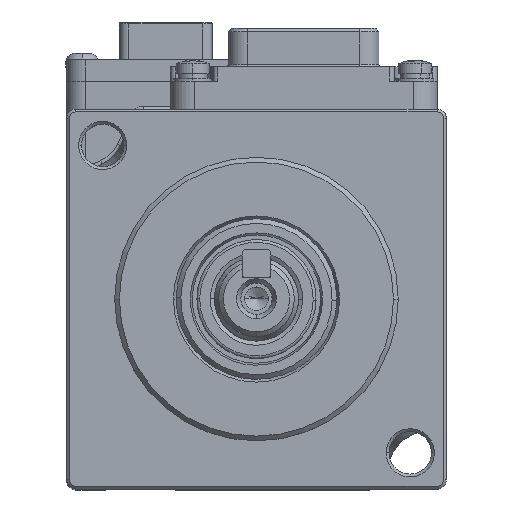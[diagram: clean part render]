
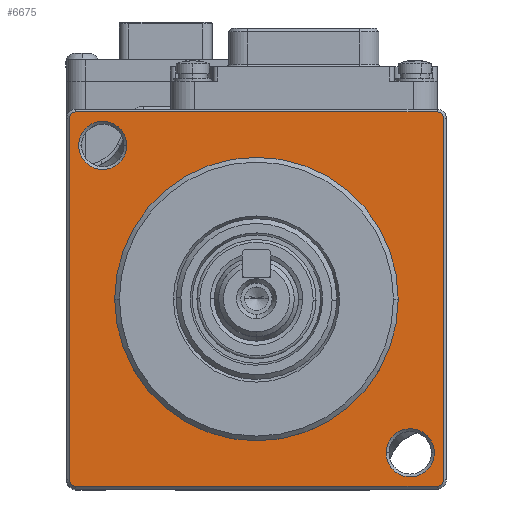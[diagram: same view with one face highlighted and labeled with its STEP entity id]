
A CAD part, top view. The second image highlights one B-rep face of the part: STEP entity #6675.
In plain terms, the highlighted planar face has unit normal (0, 0, 1).
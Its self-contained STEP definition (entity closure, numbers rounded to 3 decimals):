
#1115 = CARTESIAN_POINT ( 'NONE',  ( -16.263, 16.263, 1.8 ) ) ;
#1329 = AXIS2_PLACEMENT_3D ( 'NONE', #33205, #38457, #56084 ) ;
#1388 = PLANE ( 'NONE',  #42712 ) ;
#1514 = DIRECTION ( 'NONE',  ( 0., 0., 1. ) ) ;
#1748 = FACE_BOUND ( 'NONE', #15601, .T. ) ;
#2180 = ORIENTED_EDGE ( 'NONE', *, *, #49100, .F. ) ;
#2283 = ORIENTED_EDGE ( 'NONE', *, *, #31510, .F. ) ;
#2676 = EDGE_CURVE ( 'NONE', #14949, #52119, #38500, .T. ) ;
#3028 = DIRECTION ( 'NONE',  ( 1., 0., 0. ) ) ;
#3208 = CARTESIAN_POINT ( 'NONE',  ( 0., 19.8, 1.8 ) ) ;
#3315 = CARTESIAN_POINT ( 'NONE',  ( 16.263, -16.263, 1.8 ) ) ;
#3903 = DIRECTION ( 'NONE',  ( 1., 0., 0. ) ) ;
#4127 = VECTOR ( 'NONE', #59352, 1000. ) ;
#4261 = VERTEX_POINT ( 'NONE', #24189 ) ;
#4475 = DIRECTION ( 'NONE',  ( 0., 0., -1. ) ) ;
#4641 = CARTESIAN_POINT ( 'NONE',  ( 0., 0., 1.8 ) ) ;
#4787 = DIRECTION ( 'NONE',  ( 1., 0., 0. ) ) ;
#5175 = CIRCLE ( 'NONE', #17141, 0.7 ) ;
#6176 = AXIS2_PLACEMENT_3D ( 'NONE', #3315, #26173, #39275 ) ;
#6539 = CARTESIAN_POINT ( 'NONE',  ( 19.1, 19.1, 1.8 ) ) ;
#6675 = ADVANCED_FACE ( 'NONE', ( #19706, #18976, #70723, #1748 ), #1388, .T. ) ;
#7003 = CARTESIAN_POINT ( 'NONE',  ( 0., 15., 1.8 ) ) ;
#10120 = CARTESIAN_POINT ( 'NONE',  ( 19.8, -19.1, 1.8 ) ) ;
#10699 = CARTESIAN_POINT ( 'NONE',  ( 0., -19.8, 1.8 ) ) ;
#11187 = CIRCLE ( 'NONE', #62653, 2.55 ) ;
#11204 = CARTESIAN_POINT ( 'NONE',  ( -19.1, 19.1, 1.8 ) ) ;
#11231 = ORIENTED_EDGE ( 'NONE', *, *, #34863, .F. ) ;
#12045 = CARTESIAN_POINT ( 'NONE',  ( -15., 0., 1.8 ) ) ;
#12819 = ORIENTED_EDGE ( 'NONE', *, *, #56846, .F. ) ;
#13971 = VERTEX_POINT ( 'NONE', #72511 ) ;
#14077 = DIRECTION ( 'NONE',  ( 1., 0., 0. ) ) ;
#14949 = VERTEX_POINT ( 'NONE', #12045 ) ;
#15601 = EDGE_LOOP ( 'NONE', ( #59375, #70703 ) ) ;
#17141 = AXIS2_PLACEMENT_3D ( 'NONE', #11204, #4475, #33318 ) ;
#17504 = DIRECTION ( 'NONE',  ( 0., 0., -1. ) ) ;
#17958 = DIRECTION ( 'NONE',  ( 0., 0., 1. ) ) ;
#18109 = VERTEX_POINT ( 'NONE', #65216 ) ;
#18242 = VERTEX_POINT ( 'NONE', #28064 ) ;
#18976 = FACE_BOUND ( 'NONE', #30502, .T. ) ;
#19231 = LINE ( 'NONE', #53740, #4127 ) ;
#19706 = FACE_OUTER_BOUND ( 'NONE', #63518, .T. ) ;
#20572 = DIRECTION ( 'NONE',  ( 0., 1., 0. ) ) ;
#21267 = EDGE_CURVE ( 'NONE', #72613, #64592, #54578, .T. ) ;
#21650 = EDGE_CURVE ( 'NONE', #45068, #44466, #19231, .T. ) ;
#22304 = DIRECTION ( 'NONE',  ( 1., 0., 0. ) ) ;
#23162 = VECTOR ( 'NONE', #20572, 1000. ) ;
#23328 = CIRCLE ( 'NONE', #70058, 15. ) ;
#23638 = CARTESIAN_POINT ( 'NONE',  ( 19.1, -19.1, 1.8 ) ) ;
#24167 = AXIS2_PLACEMENT_3D ( 'NONE', #73411, #17504, #4787 ) ;
#24188 = VERTEX_POINT ( 'NONE', #41129 ) ;
#24189 = CARTESIAN_POINT ( 'NONE',  ( -19.1, -19.8, 1.8 ) ) ;
#24694 = ORIENTED_EDGE ( 'NONE', *, *, #41286, .F. ) ;
#26173 = DIRECTION ( 'NONE',  ( 0., 0., 1. ) ) ;
#26391 = EDGE_LOOP ( 'NONE', ( #73533, #2283 ) ) ;
#27299 = LINE ( 'NONE', #37813, #23162 ) ;
#28064 = CARTESIAN_POINT ( 'NONE',  ( 19.1, -19.8, 1.8 ) ) ;
#29248 = CARTESIAN_POINT ( 'NONE',  ( 0., 0., 1.8 ) ) ;
#30502 = EDGE_LOOP ( 'NONE', ( #24694, #34010 ) ) ;
#31298 = CARTESIAN_POINT ( 'NONE',  ( 19.1, 19.8, 1.8 ) ) ;
#31510 = EDGE_CURVE ( 'NONE', #24188, #48211, #65955, .T. ) ;
#32064 = EDGE_CURVE ( 'NONE', #4261, #43062, #43270, .T. ) ;
#32314 = DIRECTION ( 'NONE',  ( 0., 0., 1. ) ) ;
#32687 = DIRECTION ( 'NONE',  ( 1., 0., 0. ) ) ;
#33205 = CARTESIAN_POINT ( 'NONE',  ( 16.263, -16.263, 1.8 ) ) ;
#33318 = DIRECTION ( 'NONE',  ( 1., 0., 0. ) ) ;
#33729 = CARTESIAN_POINT ( 'NONE',  ( 18.813, -16.263, 1.8 ) ) ;
#34010 = ORIENTED_EDGE ( 'NONE', *, *, #2676, .F. ) ;
#34835 = DIRECTION ( 'NONE',  ( 1., 0., 0. ) ) ;
#34863 = EDGE_CURVE ( 'NONE', #44466, #18242, #50612, .T. ) ;
#36079 = AXIS2_PLACEMENT_3D ( 'NONE', #29248, #1514, #46152 ) ;
#36760 = CARTESIAN_POINT ( 'NONE',  ( -19.1, 19.8, 1.8 ) ) ;
#37133 = ORIENTED_EDGE ( 'NONE', *, *, #74189, .F. ) ;
#37227 = CARTESIAN_POINT ( 'NONE',  ( 15., 0., 1.8 ) ) ;
#37238 = AXIS2_PLACEMENT_3D ( 'NONE', #6539, #65626, #3028 ) ;
#37813 = CARTESIAN_POINT ( 'NONE',  ( -19.8, 20., 1.8 ) ) ;
#38143 = EDGE_CURVE ( 'NONE', #13971, #18109, #11187, .T. ) ;
#38411 = CIRCLE ( 'NONE', #37238, 0.7 ) ;
#38457 = DIRECTION ( 'NONE',  ( 0., 0., 1. ) ) ;
#38500 = CIRCLE ( 'NONE', #36079, 15. ) ;
#39275 = DIRECTION ( 'NONE',  ( 1., 0., 0. ) ) ;
#39566 = DIRECTION ( 'NONE',  ( -1., 0., 0. ) ) ;
#40156 = DIRECTION ( 'NONE',  ( 1., 0., 0. ) ) ;
#41129 = CARTESIAN_POINT ( 'NONE',  ( 13.713, -16.263, 1.8 ) ) ;
#41286 = EDGE_CURVE ( 'NONE', #52119, #14949, #23328, .T. ) ;
#42074 = CIRCLE ( 'NONE', #58828, 2.55 ) ;
#42712 = AXIS2_PLACEMENT_3D ( 'NONE', #7003, #69625, #14077 ) ;
#42865 = ORIENTED_EDGE ( 'NONE', *, *, #21650, .F. ) ;
#42907 = VECTOR ( 'NONE', #39566, 1000. ) ;
#43062 = VERTEX_POINT ( 'NONE', #53169 ) ;
#43270 = CIRCLE ( 'NONE', #24167, 0.7 ) ;
#44370 = DIRECTION ( 'NONE',  ( 0., 0., 1. ) ) ;
#44466 = VERTEX_POINT ( 'NONE', #10120 ) ;
#44812 = LINE ( 'NONE', #10699, #42907 ) ;
#45068 = VERTEX_POINT ( 'NONE', #47743 ) ;
#46152 = DIRECTION ( 'NONE',  ( 1., 0., 0. ) ) ;
#46172 = EDGE_CURVE ( 'NONE', #48211, #24188, #62402, .T. ) ;
#47743 = CARTESIAN_POINT ( 'NONE',  ( 19.8, 19.1, 1.8 ) ) ;
#47897 = EDGE_CURVE ( 'NONE', #64592, #45068, #38411, .T. ) ;
#48211 = VERTEX_POINT ( 'NONE', #33729 ) ;
#49100 = EDGE_CURVE ( 'NONE', #61069, #72613, #5175, .T. ) ;
#50612 = CIRCLE ( 'NONE', #60154, 0.7 ) ;
#51012 = ORIENTED_EDGE ( 'NONE', *, *, #32064, .F. ) ;
#51813 = ORIENTED_EDGE ( 'NONE', *, *, #21267, .F. ) ;
#52119 = VERTEX_POINT ( 'NONE', #37227 ) ;
#53169 = CARTESIAN_POINT ( 'NONE',  ( -19.8, -19.1, 1.8 ) ) ;
#53740 = CARTESIAN_POINT ( 'NONE',  ( 19.8, 20., 1.8 ) ) ;
#54578 = LINE ( 'NONE', #3208, #62717 ) ;
#56084 = DIRECTION ( 'NONE',  ( 1., 0., 0. ) ) ;
#56846 = EDGE_CURVE ( 'NONE', #18242, #4261, #44812, .T. ) ;
#57880 = CARTESIAN_POINT ( 'NONE',  ( -19.8, 19.1, 1.8 ) ) ;
#58828 = AXIS2_PLACEMENT_3D ( 'NONE', #1115, #17958, #34835 ) ;
#59352 = DIRECTION ( 'NONE',  ( 0., -1., 0. ) ) ;
#59375 = ORIENTED_EDGE ( 'NONE', *, *, #71720, .F. ) ;
#60154 = AXIS2_PLACEMENT_3D ( 'NONE', #23638, #69391, #40156 ) ;
#61069 = VERTEX_POINT ( 'NONE', #57880 ) ;
#61890 = ORIENTED_EDGE ( 'NONE', *, *, #47897, .F. ) ;
#62402 = CIRCLE ( 'NONE', #6176, 2.55 ) ;
#62653 = AXIS2_PLACEMENT_3D ( 'NONE', #72091, #32314, #32687 ) ;
#62717 = VECTOR ( 'NONE', #22304, 1000. ) ;
#63518 = EDGE_LOOP ( 'NONE', ( #61890, #51813, #2180, #37133, #51012, #12819, #11231, #42865 ) ) ;
#64592 = VERTEX_POINT ( 'NONE', #31298 ) ;
#65216 = CARTESIAN_POINT ( 'NONE',  ( -13.713, 16.263, 1.8 ) ) ;
#65626 = DIRECTION ( 'NONE',  ( 0., 0., -1. ) ) ;
#65955 = CIRCLE ( 'NONE', #1329, 2.55 ) ;
#69391 = DIRECTION ( 'NONE',  ( 0., 0., -1. ) ) ;
#69625 = DIRECTION ( 'NONE',  ( 0., 0., 1. ) ) ;
#70058 = AXIS2_PLACEMENT_3D ( 'NONE', #4641, #44370, #3903 ) ;
#70703 = ORIENTED_EDGE ( 'NONE', *, *, #38143, .F. ) ;
#70723 = FACE_BOUND ( 'NONE', #26391, .T. ) ;
#71720 = EDGE_CURVE ( 'NONE', #18109, #13971, #42074, .T. ) ;
#72091 = CARTESIAN_POINT ( 'NONE',  ( -16.263, 16.263, 1.8 ) ) ;
#72511 = CARTESIAN_POINT ( 'NONE',  ( -18.813, 16.263, 1.8 ) ) ;
#72613 = VERTEX_POINT ( 'NONE', #36760 ) ;
#73411 = CARTESIAN_POINT ( 'NONE',  ( -19.1, -19.1, 1.8 ) ) ;
#73533 = ORIENTED_EDGE ( 'NONE', *, *, #46172, .F. ) ;
#74189 = EDGE_CURVE ( 'NONE', #43062, #61069, #27299, .T. ) ;
